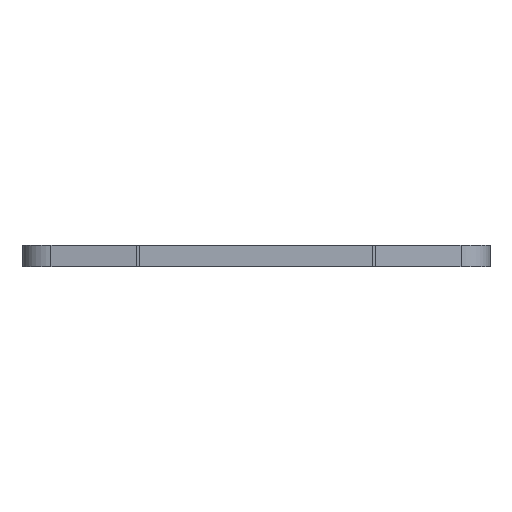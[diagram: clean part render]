
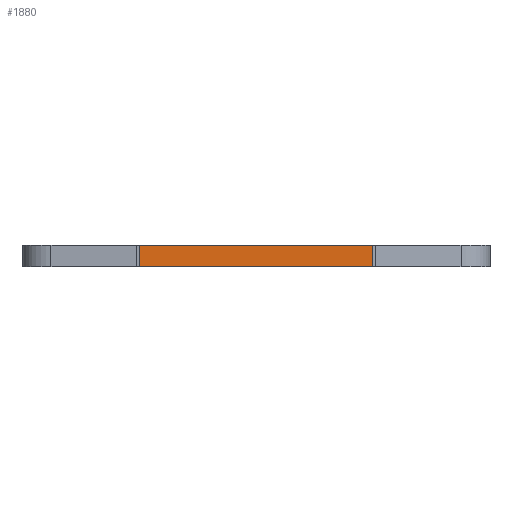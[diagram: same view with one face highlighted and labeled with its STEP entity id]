
A CAD part, left-side view. The second image highlights one B-rep face of the part: STEP entity #1880.
In plain terms, the highlighted planar face has unit normal (-1, 0, 0).
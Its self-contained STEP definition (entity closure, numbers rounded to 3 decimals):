
#6 = CARTESIAN_POINT ( 'NONE',  ( -66., 0., 0. ) ) ;
#32 = DIRECTION ( 'NONE',  ( 0., 0., -1. ) ) ;
#100 = EDGE_LOOP ( 'NONE', ( #1213, #590, #1813, #1489 ) ) ;
#107 = CARTESIAN_POINT ( 'NONE',  ( -66., -11.006, 2. ) ) ;
#124 = DIRECTION ( 'NONE',  ( 0., 0., -1. ) ) ;
#172 = DIRECTION ( 'NONE',  ( 0., -1., 0. ) ) ;
#406 = PLANE ( 'NONE',  #1870 ) ;
#570 = VECTOR ( 'NONE', #1822, 1000. ) ;
#590 = ORIENTED_EDGE ( 'NONE', *, *, #2005, .F. ) ;
#661 = VERTEX_POINT ( 'NONE', #1047 ) ;
#795 = CARTESIAN_POINT ( 'NONE',  ( -66., 11.006, 2. ) ) ;
#834 = EDGE_CURVE ( 'NONE', #1992, #936, #1255, .T. ) ;
#866 = CARTESIAN_POINT ( 'NONE',  ( -66., 11.006, 2. ) ) ;
#936 = VERTEX_POINT ( 'NONE', #1975 ) ;
#937 = FACE_OUTER_BOUND ( 'NONE', #100, .T. ) ;
#1029 = LINE ( 'NONE', #107, #1871 ) ;
#1047 = CARTESIAN_POINT ( 'NONE',  ( -66., -11.006, 0. ) ) ;
#1057 = VECTOR ( 'NONE', #172, 1000. ) ;
#1153 = VECTOR ( 'NONE', #32, 1000. ) ;
#1198 = LINE ( 'NONE', #6, #570 ) ;
#1213 = ORIENTED_EDGE ( 'NONE', *, *, #1439, .T. ) ;
#1255 = LINE ( 'NONE', #1392, #1057 ) ;
#1392 = CARTESIAN_POINT ( 'NONE',  ( -66., 0., 2. ) ) ;
#1439 = EDGE_CURVE ( 'NONE', #1577, #661, #1198, .T. ) ;
#1489 = ORIENTED_EDGE ( 'NONE', *, *, #1943, .T. ) ;
#1495 = DIRECTION ( 'NONE',  ( 1., 0., 0. ) ) ;
#1577 = VERTEX_POINT ( 'NONE', #1716 ) ;
#1610 = LINE ( 'NONE', #795, #1153 ) ;
#1716 = CARTESIAN_POINT ( 'NONE',  ( -66., 11.006, 0. ) ) ;
#1805 = CARTESIAN_POINT ( 'NONE',  ( -66., 0., 2. ) ) ;
#1813 = ORIENTED_EDGE ( 'NONE', *, *, #834, .F. ) ;
#1822 = DIRECTION ( 'NONE',  ( 0., -1., 0. ) ) ;
#1870 = AXIS2_PLACEMENT_3D ( 'NONE', #1805, #1495, #124 ) ;
#1871 = VECTOR ( 'NONE', #1946, 1000. ) ;
#1880 = ADVANCED_FACE ( 'NONE', ( #937 ), #406, .F. ) ;
#1943 = EDGE_CURVE ( 'NONE', #1992, #1577, #1610, .T. ) ;
#1946 = DIRECTION ( 'NONE',  ( 0., 0., -1. ) ) ;
#1975 = CARTESIAN_POINT ( 'NONE',  ( -66., -11.006, 2. ) ) ;
#1992 = VERTEX_POINT ( 'NONE', #866 ) ;
#2005 = EDGE_CURVE ( 'NONE', #936, #661, #1029, .T. ) ;
